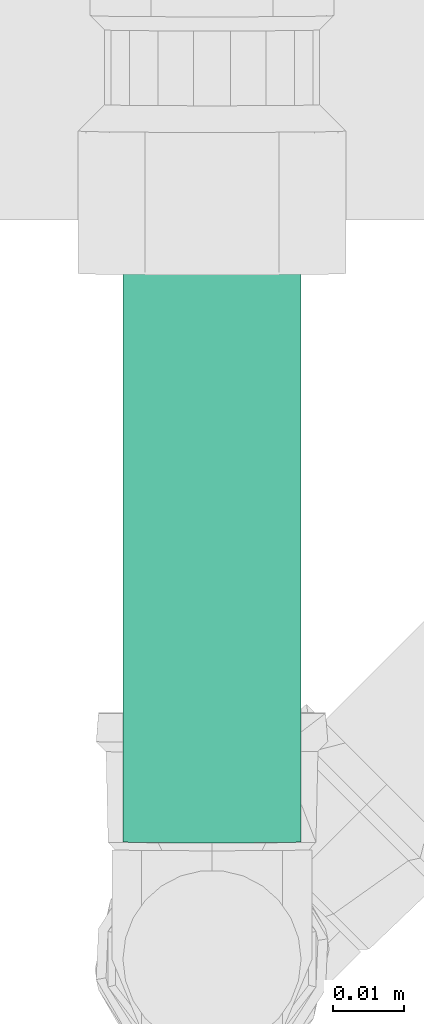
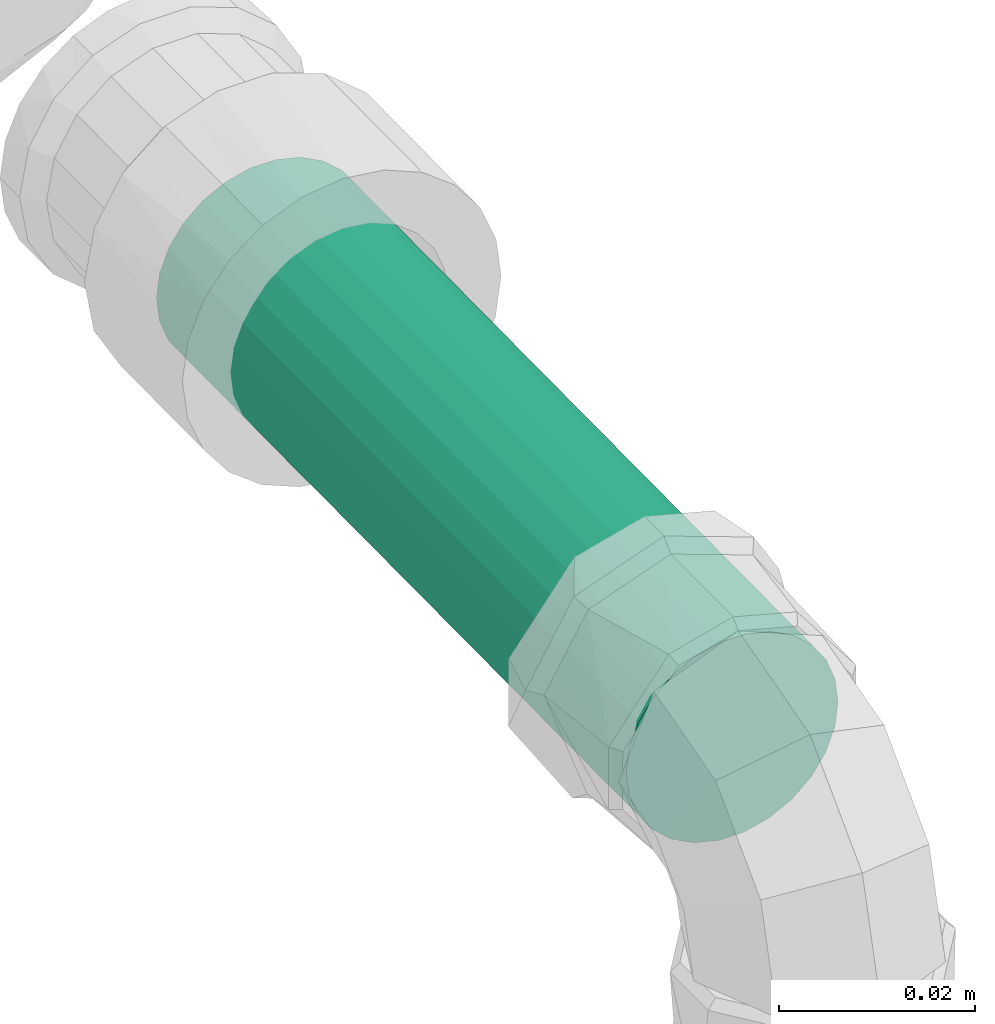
# One storey, part 92 of 589: 1 flow segment.
"""IFC2X3 building model written with IfcOpenShell, lengths in millimetres."""

from ifc_helpers import new_model, entity, si_unit, converted_unit, derived_unit, direction, frame, frame_2d, origin, place, context, subcontext, project, spatial, circle, extrude, type_object, element, save


model = new_model("IFC2X3")

# Units and contexts
model_context = context("Model", 3, precision=0.01, world=origin(), true_north=direction((6.123031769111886e-17, 1.0)))
body_context = subcontext(model_context, "Body", "Model", "MODEL_VIEW")
ifc_project = project(units=[si_unit("LENGTHUNIT", "METRE", prefix="MILLI"), si_unit("AREAUNIT", "SQUARE_METRE"), si_unit("VOLUMEUNIT", "CUBIC_METRE"), converted_unit("PLANEANGLEUNIT", "DEGREE", entity("IfcRatioMeasure", 0.017453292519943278), si_unit("PLANEANGLEUNIT", "RADIAN"), dimensions=[0, 0, 0, 0, 0, 0, 0]), si_unit("MASSUNIT", "GRAM", prefix="KILO"), derived_unit("MASSDENSITYUNIT", [(si_unit("MASSUNIT", "GRAM", prefix="KILO"), 1), (si_unit("LENGTHUNIT", "METRE"), -3)]), derived_unit("IONCONCENTRATIONUNIT", [(si_unit("MASSUNIT", "GRAM", prefix="KILO"), 1), (si_unit("LENGTHUNIT", "METRE"), -3)]), derived_unit("MOMENTOFINERTIAUNIT", [(si_unit("LENGTHUNIT", "METRE"), 4)]), si_unit("TIMEUNIT", "SECOND"), si_unit("FREQUENCYUNIT", "HERTZ"), si_unit("THERMODYNAMICTEMPERATUREUNIT", "DEGREE_CELSIUS"), derived_unit("THERMALTRANSMITTANCEUNIT", [(si_unit("MASSUNIT", "GRAM", prefix="KILO"), 1), (si_unit("THERMODYNAMICTEMPERATUREUNIT", "KELVIN"), -1), (si_unit("TIMEUNIT", "SECOND"), -3)]), derived_unit("THERMALCONDUCTANCEUNIT", [(si_unit("MASSUNIT", "GRAM", prefix="KILO"), 1), (si_unit("THERMODYNAMICTEMPERATUREUNIT", "KELVIN"), -1), (si_unit("TIMEUNIT", "SECOND"), -3), (si_unit("LENGTHUNIT", "METRE"), 1)]), derived_unit("VOLUMETRICFLOWRATEUNIT", [(si_unit("LENGTHUNIT", "METRE"), 3), (si_unit("TIMEUNIT", "SECOND"), -1)]), derived_unit("MASSFLOWRATEUNIT", [(si_unit("MASSUNIT", "GRAM", prefix="KILO"), 1), (si_unit("TIMEUNIT", "SECOND"), -1)]), derived_unit("ROTATIONALFREQUENCYUNIT", [(si_unit("TIMEUNIT", "SECOND"), -1)]), si_unit("ELECTRICCURRENTUNIT", "AMPERE"), si_unit("ELECTRICVOLTAGEUNIT", "VOLT"), si_unit("POWERUNIT", "WATT"), si_unit("FORCEUNIT", "NEWTON", prefix="KILO"), si_unit("ILLUMINANCEUNIT", "LUX"), si_unit("LUMINOUSFLUXUNIT", "LUMEN"), si_unit("LUMINOUSINTENSITYUNIT", "CANDELA"), derived_unit("USERDEFINED", [(si_unit("MASSUNIT", "GRAM", prefix="KILO"), -1), (si_unit("LENGTHUNIT", "METRE"), -2), (si_unit("TIMEUNIT", "SECOND"), 3), (si_unit("LUMINOUSFLUXUNIT", "LUMEN"), 1)]), derived_unit("USERDEFINED", [(si_unit("MASSUNIT", "GRAM", prefix="KILO"), 1), (si_unit("TIMEUNIT", "SECOND"), -3), (si_unit("LENGTHUNIT", "METRE"), 3), (si_unit("ELECTRICCURRENTUNIT", "AMPERE"), -2)]), derived_unit("SOUNDPOWERUNIT", [(si_unit("MASSUNIT", "GRAM", prefix="KILO"), 1), (si_unit("TIMEUNIT", "SECOND"), -3), (si_unit("LENGTHUNIT", "METRE"), 2)]), derived_unit("SOUNDPRESSUREUNIT", [(si_unit("MASSUNIT", "GRAM", prefix="KILO"), 1), (si_unit("LENGTHUNIT", "METRE"), -1), (si_unit("TIMEUNIT", "SECOND"), -2)]), derived_unit("LINEARVELOCITYUNIT", [(si_unit("LENGTHUNIT", "METRE"), 1), (si_unit("TIMEUNIT", "SECOND"), -1)]), si_unit("PRESSUREUNIT", "PASCAL"), derived_unit("USERDEFINED", [(si_unit("MASSUNIT", "GRAM", prefix="KILO"), 1), (si_unit("LENGTHUNIT", "METRE"), -2), (si_unit("TIMEUNIT", "SECOND"), -2)]), derived_unit("LINEARFORCEUNIT", [(si_unit("MASSUNIT", "GRAM", prefix="KILO"), 1), (si_unit("TIMEUNIT", "SECOND"), -2)]), derived_unit("PLANARFORCEUNIT", [(si_unit("MASSUNIT", "GRAM", prefix="KILO"), 1), (si_unit("LENGTHUNIT", "METRE"), -1), (si_unit("TIMEUNIT", "SECOND"), -2)]), derived_unit("SPECIFICHEATCAPACITYUNIT", [(si_unit("THERMODYNAMICTEMPERATUREUNIT", "KELVIN"), -1), (si_unit("LENGTHUNIT", "METRE"), 2), (si_unit("TIMEUNIT", "SECOND"), -2)]), derived_unit("HEATINGVALUEUNIT", [(si_unit("LENGTHUNIT", "METRE"), 2), (si_unit("TIMEUNIT", "SECOND"), -2)]), derived_unit("VAPORPERMEABILITYUNIT", [(si_unit("LENGTHUNIT", "METRE"), -1), (si_unit("TIMEUNIT", "SECOND"), 1)]), derived_unit("DYNAMICVISCOSITYUNIT", [(si_unit("MASSUNIT", "GRAM", prefix="KILO"), 1), (si_unit("TIMEUNIT", "SECOND"), -1), (si_unit("LENGTHUNIT", "METRE"), -1)]), derived_unit("THERMALEXPANSIONCOEFFICIENTUNIT", [(si_unit("THERMODYNAMICTEMPERATUREUNIT", "KELVIN"), -1)]), derived_unit("MODULUSOFELASTICITYUNIT", [(si_unit("MASSUNIT", "GRAM", prefix="KILO"), 1), (si_unit("LENGTHUNIT", "METRE"), -1), (si_unit("TIMEUNIT", "SECOND"), -2)]), derived_unit("ISOTHERMALMOISTURECAPACITYUNIT", [(si_unit("LENGTHUNIT", "METRE"), 3), (si_unit("MASSUNIT", "GRAM", prefix="KILO"), -1)]), derived_unit("MOISTUREDIFFUSIVITYUNIT", [(si_unit("TIMEUNIT", "SECOND"), -1), (si_unit("LENGTHUNIT", "METRE"), 2)])], contexts=[model_context])

# Site, building, storey
site_placement = place(None, origin())
site = spatial("IfcSite", under=ifc_project, at=site_placement, Name="Default", CompositionType="ELEMENT")
building_placement = place(site_placement, origin())
building = spatial("IfcBuilding", under=site, at=building_placement, CompositionType="ELEMENT")
storey_placement = place(building_placement, frame((0.0, 0.0, 100.0)))
storey = spatial("IfcBuildingStorey", under=building, at=storey_placement, Name="TÉRREO", CompositionType="ELEMENT", Elevation=100.0)

# Flow segment
pipe_segment_type = type_object("IfcPipeSegmentType", Name="Tipos de tubos:PVC Marrom Soldável", PredefinedType="NOTDEFINED")
flow_segment_placement = place(storey_placement, origin())
element("IfcFlowSegment", 1, at=flow_segment_placement, inside=storey, type_object=pipe_segment_type, Name="Tipos de tubos:PVC Marrom Soldável", ObjectType="Tipos de tubos:PVC Marrom Soldável", context=body_context, shape_type="SweptSolid", body=[
    extrude(circle(Radius=12.5, at=frame_2d((0.0, -5.414064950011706e-13), x_axis=(1.0, 0.0))), frame((-5713.364418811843, -646.2253968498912, 2576.4399682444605), z_axis=(0.0, 0.9999500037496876, 0.009999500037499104), x_axis=(-1.0, 0.0, 0.0)), (0.0, 0.0, 1.0), 95.98397679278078),
])

save(model, "model.ifc")
